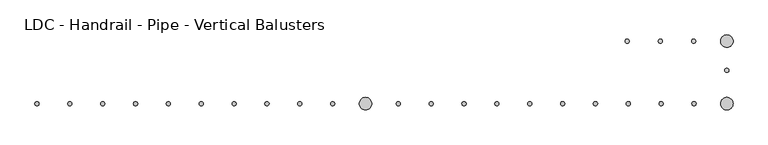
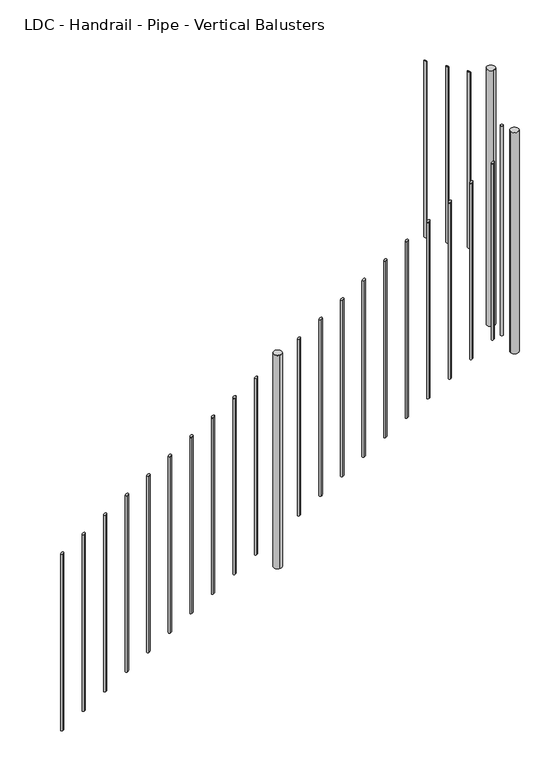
"""IFC4 building model written with IfcOpenShell, lengths in millimetres: railing geometry, LDC - Handrail - Pipe - Vertical Balusters."""

from ifc_helpers import new_model, si_unit, point, frame, frame_2d, origin, place, context, project, spatial, circle_curve, ellipse_curve, trimmed, segment, composite_curve, outline, extrude, source, transform, mapped, element, save
from ifc_brep_helpers import plane_surface, cylinder_surface, advanced_brep


def ldc_handrail_pipe_vertical_balusters_fc0078cb(model_context):
    return source(origin(), model_context, "Body", "SolidModel", [
        advanced_brep(
        [(-1009.8357461, 9510.077236, 2926.4947726), (-1009.8357461, 9522.777236, 2926.4947726), (-1009.8357461, 9522.777236, 2061.4083678), (-1009.8357461, 9510.077236, 2061.4083678)],
        [
            (0, 1, ellipse_curve(frame((-1009.8357461, 9516.427236, 2926.4947726), z_axis=(-0.5183017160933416, 0.0, -0.8551978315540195), x_axis=(-0.8551978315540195, 0.0, 0.5183017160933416)), 7.4251825, 6.35)),
            (1, 2),
            (2, 3, ellipse_curve(frame((-1009.8357461, 9516.427236, 2061.4083678), z_axis=(0.5183017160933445, 0.0, 0.8551978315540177), x_axis=(-0.8551978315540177, 0.0, 0.5183017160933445)), 7.4251825, 6.35)),
            (3, 0),
            (3, 2, ellipse_curve(frame((-1009.8357461, 9516.427236, 2061.4083678), z_axis=(0.5183017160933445, 0.0, 0.8551978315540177), x_axis=(-0.8551978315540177, 0.0, 0.5183017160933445)), 7.4251825, 6.35)),
            (1, 0, ellipse_curve(frame((-1009.8357461, 9516.427236, 2926.4947726), z_axis=(-0.5183017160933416, 0.0, -0.8551978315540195), x_axis=(-0.8551978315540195, 0.0, 0.5183017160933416)), 7.4251825, 6.35)),
        ],
        [
            cylinder_surface(frame((-1009.8357461, 9516.427236, 1832.8083678), z_axis=(0.0, 0.0, 1.0), x_axis=(0.0, 1.0, 0.0)), 6.35),
            plane_surface(frame((-1022.5357461, 9529.127236, 2934.1917423), z_axis=(0.5183017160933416, 0.0, 0.8551978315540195), x_axis=(0.0, -1.0, 0.0))),
            plane_surface(frame((-997.1357461, 9529.127236, 2053.7113981), z_axis=(-0.5183017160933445, 0.0, -0.8551978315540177), x_axis=(0.0, -1.0, 0.0))),
        ],
        [
            (0, [[1, 2, 3, 4]]),
            (0, [[5, -2, 6, -4]]),
            (1, [[-6, -1]]),
            (2, [[-5, -3]]),
        ],
    ),
        advanced_brep(
        [(-908.5243824, 9510.077236, 2864.8522106), (-908.5243824, 9522.777236, 2864.8522106), (-908.5243824, 9522.777236, 1999.7658058), (-908.5243824, 9510.077236, 1999.7658058)],
        [
            (0, 1, ellipse_curve(frame((-908.5243824, 9516.427236, 2864.8522106), z_axis=(-0.5183017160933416, 0.0, -0.8551978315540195), x_axis=(-0.8551978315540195, 0.0, 0.5183017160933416)), 7.4251825, 6.35)),
            (1, 2),
            (2, 3, ellipse_curve(frame((-908.5243824, 9516.427236, 1999.7658058), z_axis=(0.5183017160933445, 0.0, 0.8551978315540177), x_axis=(-0.8551978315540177, 0.0, 0.5183017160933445)), 7.4251825, 6.35)),
            (3, 0),
            (3, 2, ellipse_curve(frame((-908.5243824, 9516.427236, 1999.7658058), z_axis=(0.5183017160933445, 0.0, 0.8551978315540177), x_axis=(-0.8551978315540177, 0.0, 0.5183017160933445)), 7.4251825, 6.35)),
            (1, 0, ellipse_curve(frame((-908.5243824, 9516.427236, 2864.8522106), z_axis=(-0.5183017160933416, 0.0, -0.8551978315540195), x_axis=(-0.8551978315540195, 0.0, 0.5183017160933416)), 7.4251825, 6.35)),
        ],
        [
            cylinder_surface(frame((-908.5243824, 9516.427236, 1771.1658058), z_axis=(0.0, 0.0, 1.0), x_axis=(0.0, 1.0, 0.0)), 6.35),
            plane_surface(frame((-921.2243824, 9529.127236, 2872.5491803), z_axis=(0.5183017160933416, 0.0, 0.8551978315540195), x_axis=(0.0, -1.0, 0.0))),
            plane_surface(frame((-895.8243824, 9529.127236, 1992.0688361), z_axis=(-0.5183017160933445, 0.0, -0.8551978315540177), x_axis=(0.0, -1.0, 0.0))),
        ],
        [
            (0, [[1, 2, 3, 4]]),
            (0, [[5, -2, 6, -4]]),
            (1, [[-6, -1]]),
            (2, [[-5, -3]]),
        ],
    ),
        advanced_brep(
        [(-807.2130188, 9510.077236, 2803.2096486), (-807.2130188, 9522.777236, 2803.2096486), (-807.2130188, 9522.777236, 1938.1232438), (-807.2130188, 9510.077236, 1938.1232438)],
        [
            (0, 1, ellipse_curve(frame((-807.2130188, 9516.427236, 2803.2096486), z_axis=(-0.5183017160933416, 0.0, -0.8551978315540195), x_axis=(-0.8551978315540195, 0.0, 0.5183017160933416)), 7.4251825, 6.35)),
            (1, 2),
            (2, 3, ellipse_curve(frame((-807.2130188, 9516.427236, 1938.1232438), z_axis=(0.5183017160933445, 0.0, 0.8551978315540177), x_axis=(-0.8551978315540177, 0.0, 0.5183017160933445)), 7.4251825, 6.35)),
            (3, 0),
            (3, 2, ellipse_curve(frame((-807.2130188, 9516.427236, 1938.1232438), z_axis=(0.5183017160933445, 0.0, 0.8551978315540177), x_axis=(-0.8551978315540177, 0.0, 0.5183017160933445)), 7.4251825, 6.35)),
            (1, 0, ellipse_curve(frame((-807.2130188, 9516.427236, 2803.2096486), z_axis=(-0.5183017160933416, 0.0, -0.8551978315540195), x_axis=(-0.8551978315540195, 0.0, 0.5183017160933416)), 7.4251825, 6.35)),
        ],
        [
            cylinder_surface(frame((-807.2130188, 9516.427236, 1709.5232438), z_axis=(0.0, 0.0, 1.0), x_axis=(0.0, 1.0, 0.0)), 6.35),
            plane_surface(frame((-819.9130188, 9529.127236, 2810.9066183), z_axis=(0.5183017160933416, 0.0, 0.8551978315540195), x_axis=(0.0, -1.0, 0.0))),
            plane_surface(frame((-794.5130188, 9529.127236, 1930.4262741), z_axis=(-0.5183017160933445, 0.0, -0.8551978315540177), x_axis=(0.0, -1.0, 0.0))),
        ],
        [
            (0, [[1, 2, 3, 4]]),
            (0, [[5, -2, 6, -4]]),
            (1, [[-6, -1]]),
            (2, [[-5, -3]]),
        ],
    ),
        extrude(outline(composite_curve([segment(trimmed(circle_curve(frame_2d((-705.9016552, 9427.527236)), 6.35), [point((-699.5516552, 9427.527236))], [point((-712.2516552, 9427.527236))], False, "CARTESIAN"), True, "CONTINUOUS"), segment(trimmed(circle_curve(frame_2d((-705.9016552, 9427.527236)), 6.35), [point((-712.2516552, 9427.527236))], [point((-699.5516552, 9427.527236))], False, "CARTESIAN"), True, "CONTINUOUS")], self_intersect=False)), frame((0.0, 0.0, 1530.0), z_axis=(0.0, 0.0, 1.0), x_axis=(1.0, 0.0, 0.0)), (0.0, 0.0, 1.0), 1028.7),
        advanced_brep(
        [(-806.0584734, 9332.277236, 2471.9906403), (-806.0584734, 9319.577236, 2471.9906403), (-806.0584734, 9319.577236, 1606.9042355), (-806.0584734, 9332.277236, 1606.9042355)],
        [
            (0, 1, ellipse_curve(frame((-806.0584734, 9325.927236, 2471.9906403), z_axis=(0.5183017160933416, 0.0, -0.8551978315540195), x_axis=(0.8551978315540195, 0.0, 0.5183017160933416)), 7.4251825, 6.35)),
            (1, 2),
            (2, 3, ellipse_curve(frame((-806.0584734, 9325.927236, 1606.9042355), z_axis=(-0.5183017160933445, 0.0, 0.8551978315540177), x_axis=(0.8551978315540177, 0.0, 0.5183017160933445)), 7.4251825, 6.35)),
            (3, 0),
            (3, 2, ellipse_curve(frame((-806.0584734, 9325.927236, 1606.9042355), z_axis=(-0.5183017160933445, 0.0, 0.8551978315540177), x_axis=(0.8551978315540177, 0.0, 0.5183017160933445)), 7.4251825, 6.35)),
            (1, 0, ellipse_curve(frame((-806.0584734, 9325.927236, 2471.9906403), z_axis=(0.5183017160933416, 0.0, -0.8551978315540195), x_axis=(0.8551978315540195, 0.0, 0.5183017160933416)), 7.4251825, 6.35)),
        ],
        [
            cylinder_surface(frame((-806.0584734, 9325.927236, 1378.3042355), z_axis=(0.0, 0.0, 1.0), x_axis=(0.0, -1.0, 0.0)), 6.35),
            plane_surface(frame((-793.3584734, 9313.227236, 2479.68761), z_axis=(-0.5183017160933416, 0.0, 0.8551978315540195), x_axis=(0.0, 1.0, 0.0))),
            plane_surface(frame((-818.7584734, 9313.227236, 1599.2072658), z_axis=(0.5183017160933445, 0.0, -0.8551978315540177), x_axis=(0.0, 1.0, 0.0))),
        ],
        [
            (0, [[1, 2, 3, 4]]),
            (0, [[5, -2, 6, -4]]),
            (1, [[-6, -1]]),
            (2, [[-5, -3]]),
        ],
    ),
        advanced_brep(
        [(-906.2152915, 9332.277236, 2411.0505577), (-906.2152915, 9319.577236, 2411.0505577), (-906.2152915, 9319.577236, 1545.9641529), (-906.2152915, 9332.277236, 1545.9641529)],
        [
            (0, 1, ellipse_curve(frame((-906.2152915, 9325.927236, 2411.0505577), z_axis=(0.5183017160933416, 0.0, -0.8551978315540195), x_axis=(0.8551978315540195, 0.0, 0.5183017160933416)), 7.4251825, 6.35)),
            (1, 2),
            (2, 3, ellipse_curve(frame((-906.2152915, 9325.927236, 1545.9641529), z_axis=(-0.5183017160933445, 0.0, 0.8551978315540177), x_axis=(0.8551978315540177, 0.0, 0.5183017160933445)), 7.4251825, 6.35)),
            (3, 0),
            (3, 2, ellipse_curve(frame((-906.2152915, 9325.927236, 1545.9641529), z_axis=(-0.5183017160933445, 0.0, 0.8551978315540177), x_axis=(0.8551978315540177, 0.0, 0.5183017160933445)), 7.4251825, 6.35)),
            (1, 0, ellipse_curve(frame((-906.2152915, 9325.927236, 2411.0505577), z_axis=(0.5183017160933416, 0.0, -0.8551978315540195), x_axis=(0.8551978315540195, 0.0, 0.5183017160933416)), 7.4251825, 6.35)),
        ],
        [
            cylinder_surface(frame((-906.2152915, 9325.927236, 1317.3641529), z_axis=(0.0, 0.0, 1.0), x_axis=(0.0, -1.0, 0.0)), 6.35),
            plane_surface(frame((-893.5152915, 9313.227236, 2418.7475274), z_axis=(-0.5183017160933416, 0.0, 0.8551978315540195), x_axis=(0.0, 1.0, 0.0))),
            plane_surface(frame((-918.9152915, 9313.227236, 1538.2671832), z_axis=(0.5183017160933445, 0.0, -0.8551978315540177), x_axis=(0.0, 1.0, 0.0))),
        ],
        [
            (0, [[1, 2, 3, 4]]),
            (0, [[5, -2, 6, -4]]),
            (1, [[-6, -1]]),
            (2, [[-5, -3]]),
        ],
    ),
        advanced_brep(
        [(-1006.3721097, 9332.277236, 2350.1104751), (-1006.3721097, 9319.577236, 2350.1104751), (-1006.3721097, 9319.577236, 1485.0240702), (-1006.3721097, 9332.277236, 1485.0240702)],
        [
            (0, 1, ellipse_curve(frame((-1006.3721097, 9325.927236, 2350.1104751), z_axis=(0.5183017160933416, 0.0, -0.8551978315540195), x_axis=(0.8551978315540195, 0.0, 0.5183017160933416)), 7.4251825, 6.35)),
            (1, 2),
            (2, 3, ellipse_curve(frame((-1006.3721097, 9325.927236, 1485.0240702), z_axis=(-0.5183017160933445, 0.0, 0.8551978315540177), x_axis=(0.8551978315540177, 0.0, 0.5183017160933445)), 7.4251825, 6.35)),
            (3, 0),
            (3, 2, ellipse_curve(frame((-1006.3721097, 9325.927236, 1485.0240702), z_axis=(-0.5183017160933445, 0.0, 0.8551978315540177), x_axis=(0.8551978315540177, 0.0, 0.5183017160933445)), 7.4251825, 6.35)),
            (1, 0, ellipse_curve(frame((-1006.3721097, 9325.927236, 2350.1104751), z_axis=(0.5183017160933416, 0.0, -0.8551978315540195), x_axis=(0.8551978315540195, 0.0, 0.5183017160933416)), 7.4251825, 6.35)),
        ],
        [
            cylinder_surface(frame((-1006.3721097, 9325.927236, 1256.4240702), z_axis=(0.0, 0.0, 1.0), x_axis=(0.0, -1.0, 0.0)), 6.35),
            plane_surface(frame((-993.6721097, 9313.227236, 2357.8074448), z_axis=(-0.5183017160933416, 0.0, 0.8551978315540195), x_axis=(0.0, 1.0, 0.0))),
            plane_surface(frame((-1019.0721097, 9313.227236, 1477.3271006), z_axis=(0.5183017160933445, 0.0, -0.8551978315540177), x_axis=(0.0, 1.0, 0.0))),
        ],
        [
            (0, [[1, 2, 3, 4]]),
            (0, [[5, -2, 6, -4]]),
            (1, [[-6, -1]]),
            (2, [[-5, -3]]),
        ],
    ),
        advanced_brep(
        [(-1106.5289279, 9332.277236, 2289.1703924), (-1106.5289279, 9319.577236, 2289.1703924), (-1106.5289279, 9319.577236, 1424.0839876), (-1106.5289279, 9332.277236, 1424.0839876)],
        [
            (0, 1, ellipse_curve(frame((-1106.5289279, 9325.927236, 2289.1703924), z_axis=(0.5183017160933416, 0.0, -0.8551978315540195), x_axis=(0.8551978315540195, 0.0, 0.5183017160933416)), 7.4251825, 6.35)),
            (1, 2),
            (2, 3, ellipse_curve(frame((-1106.5289279, 9325.927236, 1424.0839876), z_axis=(-0.5183017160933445, 0.0, 0.8551978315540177), x_axis=(0.8551978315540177, 0.0, 0.5183017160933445)), 7.4251825, 6.35)),
            (3, 0),
            (3, 2, ellipse_curve(frame((-1106.5289279, 9325.927236, 1424.0839876), z_axis=(-0.5183017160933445, 0.0, 0.8551978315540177), x_axis=(0.8551978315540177, 0.0, 0.5183017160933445)), 7.4251825, 6.35)),
            (1, 0, ellipse_curve(frame((-1106.5289279, 9325.927236, 2289.1703924), z_axis=(0.5183017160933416, 0.0, -0.8551978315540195), x_axis=(0.8551978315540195, 0.0, 0.5183017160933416)), 7.4251825, 6.35)),
        ],
        [
            cylinder_surface(frame((-1106.5289279, 9325.927236, 1195.4839876), z_axis=(0.0, 0.0, 1.0), x_axis=(0.0, -1.0, 0.0)), 6.35),
            plane_surface(frame((-1093.8289279, 9313.227236, 2296.8673621), z_axis=(-0.5183017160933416, 0.0, 0.8551978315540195), x_axis=(0.0, 1.0, 0.0))),
            plane_surface(frame((-1119.2289279, 9313.227236, 1416.3870179), z_axis=(0.5183017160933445, 0.0, -0.8551978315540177), x_axis=(0.0, 1.0, 0.0))),
        ],
        [
            (0, [[1, 2, 3, 4]]),
            (0, [[5, -2, 6, -4]]),
            (1, [[-6, -1]]),
            (2, [[-5, -3]]),
        ],
    ),
        advanced_brep(
        [(-1206.6857461, 9332.277236, 2228.2303098), (-1206.6857461, 9319.577236, 2228.2303098), (-1206.6857461, 9319.577236, 1363.143905), (-1206.6857461, 9332.277236, 1363.143905)],
        [
            (0, 1, ellipse_curve(frame((-1206.6857461, 9325.927236, 2228.2303098), z_axis=(0.5183017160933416, 0.0, -0.8551978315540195), x_axis=(0.8551978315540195, 0.0, 0.5183017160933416)), 7.4251825, 6.35)),
            (1, 2),
            (2, 3, ellipse_curve(frame((-1206.6857461, 9325.927236, 1363.143905), z_axis=(-0.5183017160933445, 0.0, 0.8551978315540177), x_axis=(0.8551978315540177, 0.0, 0.5183017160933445)), 7.4251825, 6.35)),
            (3, 0),
            (3, 2, ellipse_curve(frame((-1206.6857461, 9325.927236, 1363.143905), z_axis=(-0.5183017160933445, 0.0, 0.8551978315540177), x_axis=(0.8551978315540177, 0.0, 0.5183017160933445)), 7.4251825, 6.35)),
            (1, 0, ellipse_curve(frame((-1206.6857461, 9325.927236, 2228.2303098), z_axis=(0.5183017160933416, 0.0, -0.8551978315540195), x_axis=(0.8551978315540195, 0.0, 0.5183017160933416)), 7.4251825, 6.35)),
        ],
        [
            cylinder_surface(frame((-1206.6857461, 9325.927236, 1134.543905), z_axis=(0.0, 0.0, 1.0), x_axis=(0.0, -1.0, 0.0)), 6.35),
            plane_surface(frame((-1193.9857461, 9313.227236, 2235.9272795), z_axis=(-0.5183017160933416, 0.0, 0.8551978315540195), x_axis=(0.0, 1.0, 0.0))),
            plane_surface(frame((-1219.3857461, 9313.227236, 1355.4469353), z_axis=(0.5183017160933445, 0.0, -0.8551978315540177), x_axis=(0.0, 1.0, 0.0))),
        ],
        [
            (0, [[1, 2, 3, 4]]),
            (0, [[5, -2, 6, -4]]),
            (1, [[-6, -1]]),
            (2, [[-5, -3]]),
        ],
    ),
        advanced_brep(
        [(-1306.8425643, 9332.277236, 2167.2902271), (-1306.8425643, 9319.577236, 2167.2902271), (-1306.8425643, 9319.577236, 1302.2038223), (-1306.8425643, 9332.277236, 1302.2038223)],
        [
            (0, 1, ellipse_curve(frame((-1306.8425643, 9325.927236, 2167.2902271), z_axis=(0.5183017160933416, 0.0, -0.8551978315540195), x_axis=(0.8551978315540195, 0.0, 0.5183017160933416)), 7.4251825, 6.35)),
            (1, 2),
            (2, 3, ellipse_curve(frame((-1306.8425643, 9325.927236, 1302.2038223), z_axis=(-0.5183017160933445, 0.0, 0.8551978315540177), x_axis=(0.8551978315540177, 0.0, 0.5183017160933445)), 7.4251825, 6.35)),
            (3, 0),
            (3, 2, ellipse_curve(frame((-1306.8425643, 9325.927236, 1302.2038223), z_axis=(-0.5183017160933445, 0.0, 0.8551978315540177), x_axis=(0.8551978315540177, 0.0, 0.5183017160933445)), 7.4251825, 6.35)),
            (1, 0, ellipse_curve(frame((-1306.8425643, 9325.927236, 2167.2902271), z_axis=(0.5183017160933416, 0.0, -0.8551978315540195), x_axis=(0.8551978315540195, 0.0, 0.5183017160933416)), 7.4251825, 6.35)),
        ],
        [
            cylinder_surface(frame((-1306.8425643, 9325.927236, 1073.6038223), z_axis=(0.0, 0.0, 1.0), x_axis=(0.0, -1.0, 0.0)), 6.35),
            plane_surface(frame((-1294.1425643, 9313.227236, 2174.9871968), z_axis=(-0.5183017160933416, 0.0, 0.8551978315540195), x_axis=(0.0, 1.0, 0.0))),
            plane_surface(frame((-1319.5425643, 9313.227236, 1294.5068526), z_axis=(0.5183017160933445, 0.0, -0.8551978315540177), x_axis=(0.0, 1.0, 0.0))),
        ],
        [
            (0, [[1, 2, 3, 4]]),
            (0, [[5, -2, 6, -4]]),
            (1, [[-6, -1]]),
            (2, [[-5, -3]]),
        ],
    ),
        advanced_brep(
        [(-1406.9993824, 9332.277236, 2106.3501445), (-1406.9993824, 9319.577236, 2106.3501445), (-1406.9993824, 9319.577236, 1241.2637397), (-1406.9993824, 9332.277236, 1241.2637397)],
        [
            (0, 1, ellipse_curve(frame((-1406.9993824, 9325.927236, 2106.3501445), z_axis=(0.5183017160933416, 0.0, -0.8551978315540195), x_axis=(0.8551978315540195, 0.0, 0.5183017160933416)), 7.4251825, 6.35)),
            (1, 2),
            (2, 3, ellipse_curve(frame((-1406.9993824, 9325.927236, 1241.2637397), z_axis=(-0.5183017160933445, 0.0, 0.8551978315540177), x_axis=(0.8551978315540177, 0.0, 0.5183017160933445)), 7.4251825, 6.35)),
            (3, 0),
            (3, 2, ellipse_curve(frame((-1406.9993824, 9325.927236, 1241.2637397), z_axis=(-0.5183017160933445, 0.0, 0.8551978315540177), x_axis=(0.8551978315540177, 0.0, 0.5183017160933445)), 7.4251825, 6.35)),
            (1, 0, ellipse_curve(frame((-1406.9993824, 9325.927236, 2106.3501445), z_axis=(0.5183017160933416, 0.0, -0.8551978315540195), x_axis=(0.8551978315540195, 0.0, 0.5183017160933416)), 7.4251825, 6.35)),
        ],
        [
            cylinder_surface(frame((-1406.9993824, 9325.927236, 1012.6637397), z_axis=(0.0, 0.0, 1.0), x_axis=(0.0, -1.0, 0.0)), 6.35),
            plane_surface(frame((-1394.2993824, 9313.227236, 2114.0471142), z_axis=(-0.5183017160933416, 0.0, 0.8551978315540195), x_axis=(0.0, 1.0, 0.0))),
            plane_surface(frame((-1419.6993824, 9313.227236, 1233.56677), z_axis=(0.5183017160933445, 0.0, -0.8551978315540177), x_axis=(0.0, 1.0, 0.0))),
        ],
        [
            (0, [[1, 2, 3, 4]]),
            (0, [[5, -2, 6, -4]]),
            (1, [[-6, -1]]),
            (2, [[-5, -3]]),
        ],
    ),
        advanced_brep(
        [(-1507.1562006, 9332.277236, 2045.4100618), (-1507.1562006, 9319.577236, 2045.4100618), (-1507.1562006, 9319.577236, 1180.323657), (-1507.1562006, 9332.277236, 1180.323657)],
        [
            (0, 1, ellipse_curve(frame((-1507.1562006, 9325.927236, 2045.4100618), z_axis=(0.5183017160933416, 0.0, -0.8551978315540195), x_axis=(0.8551978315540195, 0.0, 0.5183017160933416)), 7.4251825, 6.35)),
            (1, 2),
            (2, 3, ellipse_curve(frame((-1507.1562006, 9325.927236, 1180.323657), z_axis=(-0.5183017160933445, 0.0, 0.8551978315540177), x_axis=(0.8551978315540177, 0.0, 0.5183017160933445)), 7.4251825, 6.35)),
            (3, 0),
            (3, 2, ellipse_curve(frame((-1507.1562006, 9325.927236, 1180.323657), z_axis=(-0.5183017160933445, 0.0, 0.8551978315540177), x_axis=(0.8551978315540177, 0.0, 0.5183017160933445)), 7.4251825, 6.35)),
            (1, 0, ellipse_curve(frame((-1507.1562006, 9325.927236, 2045.4100618), z_axis=(0.5183017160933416, 0.0, -0.8551978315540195), x_axis=(0.8551978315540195, 0.0, 0.5183017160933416)), 7.4251825, 6.35)),
        ],
        [
            cylinder_surface(frame((-1507.1562006, 9325.927236, 951.723657), z_axis=(0.0, 0.0, 1.0), x_axis=(0.0, -1.0, 0.0)), 6.35),
            plane_surface(frame((-1494.4562006, 9313.227236, 2053.1070315), z_axis=(-0.5183017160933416, 0.0, 0.8551978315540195), x_axis=(0.0, 1.0, 0.0))),
            plane_surface(frame((-1519.8562006, 9313.227236, 1172.6266873), z_axis=(0.5183017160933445, 0.0, -0.8551978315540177), x_axis=(0.0, 1.0, 0.0))),
        ],
        [
            (0, [[1, 2, 3, 4]]),
            (0, [[5, -2, 6, -4]]),
            (1, [[-6, -1]]),
            (2, [[-5, -3]]),
        ],
    ),
        advanced_brep(
        [(-1607.3130188, 9332.277236, 1984.4699792), (-1607.3130188, 9319.577236, 1984.4699792), (-1607.3130188, 9319.577236, 1119.3835744), (-1607.3130188, 9332.277236, 1119.3835744)],
        [
            (0, 1, ellipse_curve(frame((-1607.3130188, 9325.927236, 1984.4699792), z_axis=(0.5183017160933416, 0.0, -0.8551978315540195), x_axis=(0.8551978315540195, 0.0, 0.5183017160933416)), 7.4251825, 6.35)),
            (1, 2),
            (2, 3, ellipse_curve(frame((-1607.3130188, 9325.927236, 1119.3835744), z_axis=(-0.5183017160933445, 0.0, 0.8551978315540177), x_axis=(0.8551978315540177, 0.0, 0.5183017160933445)), 7.4251825, 6.35)),
            (3, 0),
            (3, 2, ellipse_curve(frame((-1607.3130188, 9325.927236, 1119.3835744), z_axis=(-0.5183017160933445, 0.0, 0.8551978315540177), x_axis=(0.8551978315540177, 0.0, 0.5183017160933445)), 7.4251825, 6.35)),
            (1, 0, ellipse_curve(frame((-1607.3130188, 9325.927236, 1984.4699792), z_axis=(0.5183017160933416, 0.0, -0.8551978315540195), x_axis=(0.8551978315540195, 0.0, 0.5183017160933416)), 7.4251825, 6.35)),
        ],
        [
            cylinder_surface(frame((-1607.3130188, 9325.927236, 890.7835744), z_axis=(0.0, 0.0, 1.0), x_axis=(0.0, -1.0, 0.0)), 6.35),
            plane_surface(frame((-1594.6130188, 9313.227236, 1992.1669489), z_axis=(-0.5183017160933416, 0.0, 0.8551978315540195), x_axis=(0.0, 1.0, 0.0))),
            plane_surface(frame((-1620.0130188, 9313.227236, 1111.6866047), z_axis=(0.5183017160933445, 0.0, -0.8551978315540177), x_axis=(0.0, 1.0, 0.0))),
        ],
        [
            (0, [[1, 2, 3, 4]]),
            (0, [[5, -2, 6, -4]]),
            (1, [[-6, -1]]),
            (2, [[-5, -3]]),
        ],
    ),
        advanced_brep(
        [(-1707.469837, 9332.277236, 1923.5298965), (-1707.469837, 9319.577236, 1923.5298965), (-1707.469837, 9319.577236, 1058.4434917), (-1707.469837, 9332.277236, 1058.4434917)],
        [
            (0, 1, ellipse_curve(frame((-1707.469837, 9325.927236, 1923.5298965), z_axis=(0.5183017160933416, 0.0, -0.8551978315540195), x_axis=(0.8551978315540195, 0.0, 0.5183017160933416)), 7.4251825, 6.35)),
            (1, 2),
            (2, 3, ellipse_curve(frame((-1707.469837, 9325.927236, 1058.4434917), z_axis=(-0.5183017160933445, 0.0, 0.8551978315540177), x_axis=(0.8551978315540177, 0.0, 0.5183017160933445)), 7.4251825, 6.35)),
            (3, 0),
            (3, 2, ellipse_curve(frame((-1707.469837, 9325.927236, 1058.4434917), z_axis=(-0.5183017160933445, 0.0, 0.8551978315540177), x_axis=(0.8551978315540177, 0.0, 0.5183017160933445)), 7.4251825, 6.35)),
            (1, 0, ellipse_curve(frame((-1707.469837, 9325.927236, 1923.5298965), z_axis=(0.5183017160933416, 0.0, -0.8551978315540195), x_axis=(0.8551978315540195, 0.0, 0.5183017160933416)), 7.4251825, 6.35)),
        ],
        [
            cylinder_surface(frame((-1707.469837, 9325.927236, 829.8434917), z_axis=(0.0, 0.0, 1.0), x_axis=(0.0, -1.0, 0.0)), 6.35),
            plane_surface(frame((-1694.769837, 9313.227236, 1931.2268662), z_axis=(-0.5183017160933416, 0.0, 0.8551978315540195), x_axis=(0.0, 1.0, 0.0))),
            plane_surface(frame((-1720.169837, 9313.227236, 1050.746522), z_axis=(0.5183017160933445, 0.0, -0.8551978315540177), x_axis=(0.0, 1.0, 0.0))),
        ],
        [
            (0, [[1, 2, 3, 4]]),
            (0, [[5, -2, 6, -4]]),
            (1, [[-6, -1]]),
            (2, [[-5, -3]]),
        ],
    ),
        extrude(outline(composite_curve([segment(trimmed(circle_curve(frame_2d((-1807.6266552, 9325.927236)), 19.05), [point((-1807.6266552, 9306.877236))], [point((-1807.6266552, 9344.977236))], False, "CARTESIAN"), True, "CONTINUOUS"), segment(trimmed(circle_curve(frame_2d((-1807.6266552, 9325.927236)), 19.05), [point((-1807.6266552, 9344.977236))], [point((-1807.6266552, 9306.877236))], False, "CARTESIAN"), True, "CONTINUOUS")], self_intersect=False)), frame((0.0, 0.0, 840.3409091), z_axis=(0.0, 0.0, 1.0), x_axis=(1.0, 0.0, 0.0)), (0.0, 0.0, 1.0), 1047.75),
        advanced_brep(
        [(-1807.6266552, 9332.277236, 1862.5898139), (-1807.6266552, 9319.577236, 1862.5898139), (-1807.6266552, 9319.577236, 997.5034091), (-1807.6266552, 9332.277236, 997.5034091)],
        [
            (0, 1, ellipse_curve(frame((-1807.6266552, 9325.927236, 1862.5898139), z_axis=(0.5183017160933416, 0.0, -0.8551978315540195), x_axis=(0.8551978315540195, 0.0, 0.5183017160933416)), 7.4251825, 6.35)),
            (1, 2),
            (2, 3, ellipse_curve(frame((-1807.6266552, 9325.927236, 997.5034091), z_axis=(-0.5183017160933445, 0.0, 0.8551978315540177), x_axis=(0.8551978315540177, 0.0, 0.5183017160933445)), 7.4251825, 6.35)),
            (3, 0),
            (3, 2, ellipse_curve(frame((-1807.6266552, 9325.927236, 997.5034091), z_axis=(-0.5183017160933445, 0.0, 0.8551978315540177), x_axis=(0.8551978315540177, 0.0, 0.5183017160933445)), 7.4251825, 6.35)),
            (1, 0, ellipse_curve(frame((-1807.6266552, 9325.927236, 1862.5898139), z_axis=(0.5183017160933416, 0.0, -0.8551978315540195), x_axis=(0.8551978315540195, 0.0, 0.5183017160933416)), 7.4251825, 6.35)),
        ],
        [
            cylinder_surface(frame((-1807.6266552, 9325.927236, 768.9034091), z_axis=(0.0, 0.0, 1.0), x_axis=(0.0, -1.0, 0.0)), 6.35),
            plane_surface(frame((-1794.9266552, 9313.227236, 1870.2867836), z_axis=(-0.5183017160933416, 0.0, 0.8551978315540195), x_axis=(0.0, 1.0, 0.0))),
            plane_surface(frame((-1820.3266552, 9313.227236, 989.8064394), z_axis=(0.5183017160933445, 0.0, -0.8551978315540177), x_axis=(0.0, 1.0, 0.0))),
        ],
        [
            (0, [[1, 2, 3, 4]]),
            (0, [[5, -2, 6, -4]]),
            (1, [[-6, -1]]),
            (2, [[-5, -3]]),
        ],
    ),
        advanced_brep(
        [(-1907.7834734, 9332.277236, 1801.6497313), (-1907.7834734, 9319.577236, 1801.6497313), (-1907.7834734, 9319.577236, 936.5633264), (-1907.7834734, 9332.277236, 936.5633264)],
        [
            (0, 1, ellipse_curve(frame((-1907.7834734, 9325.927236, 1801.6497313), z_axis=(0.5183017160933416, 0.0, -0.8551978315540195), x_axis=(0.8551978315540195, 0.0, 0.5183017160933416)), 7.4251825, 6.35)),
            (1, 2),
            (2, 3, ellipse_curve(frame((-1907.7834734, 9325.927236, 936.5633264), z_axis=(-0.5183017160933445, 0.0, 0.8551978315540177), x_axis=(0.8551978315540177, 0.0, 0.5183017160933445)), 7.4251825, 6.35)),
            (3, 0),
            (3, 2, ellipse_curve(frame((-1907.7834734, 9325.927236, 936.5633264), z_axis=(-0.5183017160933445, 0.0, 0.8551978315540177), x_axis=(0.8551978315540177, 0.0, 0.5183017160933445)), 7.4251825, 6.35)),
            (1, 0, ellipse_curve(frame((-1907.7834734, 9325.927236, 1801.6497313), z_axis=(0.5183017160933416, 0.0, -0.8551978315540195), x_axis=(0.8551978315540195, 0.0, 0.5183017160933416)), 7.4251825, 6.35)),
        ],
        [
            cylinder_surface(frame((-1907.7834734, 9325.927236, 707.9633264), z_axis=(0.0, 0.0, 1.0), x_axis=(0.0, -1.0, 0.0)), 6.35),
            plane_surface(frame((-1895.0834734, 9313.227236, 1809.346701), z_axis=(-0.5183017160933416, 0.0, 0.8551978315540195), x_axis=(0.0, 1.0, 0.0))),
            plane_surface(frame((-1920.4834734, 9313.227236, 928.8663567), z_axis=(0.5183017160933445, 0.0, -0.8551978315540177), x_axis=(0.0, 1.0, 0.0))),
        ],
        [
            (0, [[1, 2, 3, 4]]),
            (0, [[5, -2, 6, -4]]),
            (1, [[-6, -1]]),
            (2, [[-5, -3]]),
        ],
    ),
        advanced_brep(
        [(-2007.9402915, 9332.277236, 1740.7096486), (-2007.9402915, 9319.577236, 1740.7096486), (-2007.9402915, 9319.577236, 875.6232438), (-2007.9402915, 9332.277236, 875.6232438)],
        [
            (0, 1, ellipse_curve(frame((-2007.9402915, 9325.927236, 1740.7096486), z_axis=(0.5183017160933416, 0.0, -0.8551978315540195), x_axis=(0.8551978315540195, 0.0, 0.5183017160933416)), 7.4251825, 6.35)),
            (1, 2),
            (2, 3, ellipse_curve(frame((-2007.9402915, 9325.927236, 875.6232438), z_axis=(-0.5183017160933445, 0.0, 0.8551978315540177), x_axis=(0.8551978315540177, 0.0, 0.5183017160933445)), 7.4251825, 6.35)),
            (3, 0),
            (3, 2, ellipse_curve(frame((-2007.9402915, 9325.927236, 875.6232438), z_axis=(-0.5183017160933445, 0.0, 0.8551978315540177), x_axis=(0.8551978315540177, 0.0, 0.5183017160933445)), 7.4251825, 6.35)),
            (1, 0, ellipse_curve(frame((-2007.9402915, 9325.927236, 1740.7096486), z_axis=(0.5183017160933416, 0.0, -0.8551978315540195), x_axis=(0.8551978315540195, 0.0, 0.5183017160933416)), 7.4251825, 6.35)),
        ],
        [
            cylinder_surface(frame((-2007.9402915, 9325.927236, 647.0232438), z_axis=(0.0, 0.0, 1.0), x_axis=(0.0, -1.0, 0.0)), 6.35),
            plane_surface(frame((-1995.2402915, 9313.227236, 1748.4066183), z_axis=(-0.5183017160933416, 0.0, 0.8551978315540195), x_axis=(0.0, 1.0, 0.0))),
            plane_surface(frame((-2020.6402915, 9313.227236, 867.9262741), z_axis=(0.5183017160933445, 0.0, -0.8551978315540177), x_axis=(0.0, 1.0, 0.0))),
        ],
        [
            (0, [[1, 2, 3, 4]]),
            (0, [[5, -2, 6, -4]]),
            (1, [[-6, -1]]),
            (2, [[-5, -3]]),
        ],
    ),
        advanced_brep(
        [(-2108.0971097, 9332.277236, 1679.769566), (-2108.0971097, 9319.577236, 1679.769566), (-2108.0971097, 9319.577236, 814.6831612), (-2108.0971097, 9332.277236, 814.6831612)],
        [
            (0, 1, ellipse_curve(frame((-2108.0971097, 9325.927236, 1679.769566), z_axis=(0.5183017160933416, 0.0, -0.8551978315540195), x_axis=(0.8551978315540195, 0.0, 0.5183017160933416)), 7.4251825, 6.35)),
            (1, 2),
            (2, 3, ellipse_curve(frame((-2108.0971097, 9325.927236, 814.6831612), z_axis=(-0.5183017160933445, 0.0, 0.8551978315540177), x_axis=(0.8551978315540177, 0.0, 0.5183017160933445)), 7.4251825, 6.35)),
            (3, 0),
            (3, 2, ellipse_curve(frame((-2108.0971097, 9325.927236, 814.6831612), z_axis=(-0.5183017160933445, 0.0, 0.8551978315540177), x_axis=(0.8551978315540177, 0.0, 0.5183017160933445)), 7.4251825, 6.35)),
            (1, 0, ellipse_curve(frame((-2108.0971097, 9325.927236, 1679.769566), z_axis=(0.5183017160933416, 0.0, -0.8551978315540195), x_axis=(0.8551978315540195, 0.0, 0.5183017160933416)), 7.4251825, 6.35)),
        ],
        [
            cylinder_surface(frame((-2108.0971097, 9325.927236, 586.0831612), z_axis=(0.0, 0.0, 1.0), x_axis=(0.0, -1.0, 0.0)), 6.35),
            plane_surface(frame((-2095.3971097, 9313.227236, 1687.4665357), z_axis=(-0.5183017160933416, 0.0, 0.8551978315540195), x_axis=(0.0, 1.0, 0.0))),
            plane_surface(frame((-2120.7971097, 9313.227236, 806.9861915), z_axis=(0.5183017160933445, 0.0, -0.8551978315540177), x_axis=(0.0, 1.0, 0.0))),
        ],
        [
            (0, [[1, 2, 3, 4]]),
            (0, [[5, -2, 6, -4]]),
            (1, [[-6, -1]]),
            (2, [[-5, -3]]),
        ],
    ),
        advanced_brep(
        [(-2208.2539279, 9332.277236, 1618.8294833), (-2208.2539279, 9319.577236, 1618.8294833), (-2208.2539279, 9319.577236, 753.7430785), (-2208.2539279, 9332.277236, 753.7430785)],
        [
            (0, 1, ellipse_curve(frame((-2208.2539279, 9325.927236, 1618.8294833), z_axis=(0.5183017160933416, 0.0, -0.8551978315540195), x_axis=(0.8551978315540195, 0.0, 0.5183017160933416)), 7.4251825, 6.35)),
            (1, 2),
            (2, 3, ellipse_curve(frame((-2208.2539279, 9325.927236, 753.7430785), z_axis=(-0.5183017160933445, 0.0, 0.8551978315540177), x_axis=(0.8551978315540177, 0.0, 0.5183017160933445)), 7.4251825, 6.35)),
            (3, 0),
            (3, 2, ellipse_curve(frame((-2208.2539279, 9325.927236, 753.7430785), z_axis=(-0.5183017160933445, 0.0, 0.8551978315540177), x_axis=(0.8551978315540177, 0.0, 0.5183017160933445)), 7.4251825, 6.35)),
            (1, 0, ellipse_curve(frame((-2208.2539279, 9325.927236, 1618.8294833), z_axis=(0.5183017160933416, 0.0, -0.8551978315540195), x_axis=(0.8551978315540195, 0.0, 0.5183017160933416)), 7.4251825, 6.35)),
        ],
        [
            cylinder_surface(frame((-2208.2539279, 9325.927236, 525.1430785), z_axis=(0.0, 0.0, 1.0), x_axis=(0.0, -1.0, 0.0)), 6.35),
            plane_surface(frame((-2195.5539279, 9313.227236, 1626.526453), z_axis=(-0.5183017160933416, 0.0, 0.8551978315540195), x_axis=(0.0, 1.0, 0.0))),
            plane_surface(frame((-2220.9539279, 9313.227236, 746.0461088), z_axis=(0.5183017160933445, 0.0, -0.8551978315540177), x_axis=(0.0, 1.0, 0.0))),
        ],
        [
            (0, [[1, 2, 3, 4]]),
            (0, [[5, -2, 6, -4]]),
            (1, [[-6, -1]]),
            (2, [[-5, -3]]),
        ],
    ),
        advanced_brep(
        [(-2308.4107461, 9332.277236, 1557.8894007), (-2308.4107461, 9319.577236, 1557.8894007), (-2308.4107461, 9319.577236, 692.8029959), (-2308.4107461, 9332.277236, 692.8029959)],
        [
            (0, 1, ellipse_curve(frame((-2308.4107461, 9325.927236, 1557.8894007), z_axis=(0.5183017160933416, 0.0, -0.8551978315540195), x_axis=(0.8551978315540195, 0.0, 0.5183017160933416)), 7.4251825, 6.35)),
            (1, 2),
            (2, 3, ellipse_curve(frame((-2308.4107461, 9325.927236, 692.8029959), z_axis=(-0.5183017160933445, 0.0, 0.8551978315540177), x_axis=(0.8551978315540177, 0.0, 0.5183017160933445)), 7.4251825, 6.35)),
            (3, 0),
            (3, 2, ellipse_curve(frame((-2308.4107461, 9325.927236, 692.8029959), z_axis=(-0.5183017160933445, 0.0, 0.8551978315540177), x_axis=(0.8551978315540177, 0.0, 0.5183017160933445)), 7.4251825, 6.35)),
            (1, 0, ellipse_curve(frame((-2308.4107461, 9325.927236, 1557.8894007), z_axis=(0.5183017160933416, 0.0, -0.8551978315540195), x_axis=(0.8551978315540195, 0.0, 0.5183017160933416)), 7.4251825, 6.35)),
        ],
        [
            cylinder_surface(frame((-2308.4107461, 9325.927236, 464.2029959), z_axis=(0.0, 0.0, 1.0), x_axis=(0.0, -1.0, 0.0)), 6.35),
            plane_surface(frame((-2295.7107461, 9313.227236, 1565.5863704), z_axis=(-0.5183017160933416, 0.0, 0.8551978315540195), x_axis=(0.0, 1.0, 0.0))),
            plane_surface(frame((-2321.1107461, 9313.227236, 685.1060262), z_axis=(0.5183017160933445, 0.0, -0.8551978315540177), x_axis=(0.0, 1.0, 0.0))),
        ],
        [
            (0, [[1, 2, 3, 4]]),
            (0, [[5, -2, 6, -4]]),
            (1, [[-6, -1]]),
            (2, [[-5, -3]]),
        ],
    ),
        advanced_brep(
        [(-2408.5675643, 9332.277236, 1496.949318), (-2408.5675643, 9319.577236, 1496.949318), (-2408.5675643, 9319.577236, 631.8629132), (-2408.5675643, 9332.277236, 631.8629132)],
        [
            (0, 1, ellipse_curve(frame((-2408.5675643, 9325.927236, 1496.949318), z_axis=(0.5183017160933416, 0.0, -0.8551978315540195), x_axis=(0.8551978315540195, 0.0, 0.5183017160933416)), 7.4251825, 6.35)),
            (1, 2),
            (2, 3, ellipse_curve(frame((-2408.5675643, 9325.927236, 631.8629132), z_axis=(-0.5183017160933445, 0.0, 0.8551978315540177), x_axis=(0.8551978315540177, 0.0, 0.5183017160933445)), 7.4251825, 6.35)),
            (3, 0),
            (3, 2, ellipse_curve(frame((-2408.5675643, 9325.927236, 631.8629132), z_axis=(-0.5183017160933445, 0.0, 0.8551978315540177), x_axis=(0.8551978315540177, 0.0, 0.5183017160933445)), 7.4251825, 6.35)),
            (1, 0, ellipse_curve(frame((-2408.5675643, 9325.927236, 1496.949318), z_axis=(0.5183017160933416, 0.0, -0.8551978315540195), x_axis=(0.8551978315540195, 0.0, 0.5183017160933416)), 7.4251825, 6.35)),
        ],
        [
            cylinder_surface(frame((-2408.5675643, 9325.927236, 403.2629132), z_axis=(0.0, 0.0, 1.0), x_axis=(0.0, -1.0, 0.0)), 6.35),
            plane_surface(frame((-2395.8675643, 9313.227236, 1504.6462877), z_axis=(-0.5183017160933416, 0.0, 0.8551978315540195), x_axis=(0.0, 1.0, 0.0))),
            plane_surface(frame((-2421.2675643, 9313.227236, 624.1659435), z_axis=(0.5183017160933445, 0.0, -0.8551978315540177), x_axis=(0.0, 1.0, 0.0))),
        ],
        [
            (0, [[1, 2, 3, 4]]),
            (0, [[5, -2, 6, -4]]),
            (1, [[-6, -1]]),
            (2, [[-5, -3]]),
        ],
    ),
        advanced_brep(
        [(-2508.7243824, 9332.277236, 1436.0092354), (-2508.7243824, 9319.577236, 1436.0092354), (-2508.7243824, 9319.577236, 570.9228306), (-2508.7243824, 9332.277236, 570.9228306)],
        [
            (0, 1, ellipse_curve(frame((-2508.7243824, 9325.927236, 1436.0092354), z_axis=(0.5183017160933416, 0.0, -0.8551978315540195), x_axis=(0.8551978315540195, 0.0, 0.5183017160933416)), 7.4251825, 6.35)),
            (1, 2),
            (2, 3, ellipse_curve(frame((-2508.7243824, 9325.927236, 570.9228306), z_axis=(-0.5183017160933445, 0.0, 0.8551978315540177), x_axis=(0.8551978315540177, 0.0, 0.5183017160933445)), 7.4251825, 6.35)),
            (3, 0),
            (3, 2, ellipse_curve(frame((-2508.7243824, 9325.927236, 570.9228306), z_axis=(-0.5183017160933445, 0.0, 0.8551978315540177), x_axis=(0.8551978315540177, 0.0, 0.5183017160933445)), 7.4251825, 6.35)),
            (1, 0, ellipse_curve(frame((-2508.7243824, 9325.927236, 1436.0092354), z_axis=(0.5183017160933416, 0.0, -0.8551978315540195), x_axis=(0.8551978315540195, 0.0, 0.5183017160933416)), 7.4251825, 6.35)),
        ],
        [
            cylinder_surface(frame((-2508.7243824, 9325.927236, 342.3228306), z_axis=(0.0, 0.0, 1.0), x_axis=(0.0, -1.0, 0.0)), 6.35),
            plane_surface(frame((-2496.0243824, 9313.227236, 1443.7062051), z_axis=(-0.5183017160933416, 0.0, 0.8551978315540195), x_axis=(0.0, 1.0, 0.0))),
            plane_surface(frame((-2521.4243824, 9313.227236, 563.2258609), z_axis=(0.5183017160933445, 0.0, -0.8551978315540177), x_axis=(0.0, 1.0, 0.0))),
        ],
        [
            (0, [[1, 2, 3, 4]]),
            (0, [[5, -2, 6, -4]]),
            (1, [[-6, -1]]),
            (2, [[-5, -3]]),
        ],
    ),
        advanced_brep(
        [(-2608.8812006, 9332.277236, 1375.0691527), (-2608.8812006, 9319.577236, 1375.0691527), (-2608.8812006, 9319.577236, 509.9827479), (-2608.8812006, 9332.277236, 509.9827479)],
        [
            (0, 1, ellipse_curve(frame((-2608.8812006, 9325.927236, 1375.0691527), z_axis=(0.5183017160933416, 0.0, -0.8551978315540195), x_axis=(0.8551978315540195, 0.0, 0.5183017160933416)), 7.4251825, 6.35)),
            (1, 2),
            (2, 3, ellipse_curve(frame((-2608.8812006, 9325.927236, 509.9827479), z_axis=(-0.5183017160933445, 0.0, 0.8551978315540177), x_axis=(0.8551978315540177, 0.0, 0.5183017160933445)), 7.4251825, 6.35)),
            (3, 0),
            (3, 2, ellipse_curve(frame((-2608.8812006, 9325.927236, 509.9827479), z_axis=(-0.5183017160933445, 0.0, 0.8551978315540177), x_axis=(0.8551978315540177, 0.0, 0.5183017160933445)), 7.4251825, 6.35)),
            (1, 0, ellipse_curve(frame((-2608.8812006, 9325.927236, 1375.0691527), z_axis=(0.5183017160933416, 0.0, -0.8551978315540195), x_axis=(0.8551978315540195, 0.0, 0.5183017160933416)), 7.4251825, 6.35)),
        ],
        [
            cylinder_surface(frame((-2608.8812006, 9325.927236, 281.3827479), z_axis=(0.0, 0.0, 1.0), x_axis=(0.0, -1.0, 0.0)), 6.35),
            plane_surface(frame((-2596.1812006, 9313.227236, 1382.7661224), z_axis=(-0.5183017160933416, 0.0, 0.8551978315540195), x_axis=(0.0, 1.0, 0.0))),
            plane_surface(frame((-2621.5812006, 9313.227236, 502.2857782), z_axis=(0.5183017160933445, 0.0, -0.8551978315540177), x_axis=(0.0, 1.0, 0.0))),
        ],
        [
            (0, [[1, 2, 3, 4]]),
            (0, [[5, -2, 6, -4]]),
            (1, [[-6, -1]]),
            (2, [[-5, -3]]),
        ],
    ),
        advanced_brep(
        [(-2709.0380188, 9332.277236, 1314.1290701), (-2709.0380188, 9319.577236, 1314.1290701), (-2709.0380188, 9319.577236, 449.0426653), (-2709.0380188, 9332.277236, 449.0426653)],
        [
            (0, 1, ellipse_curve(frame((-2709.0380188, 9325.927236, 1314.1290701), z_axis=(0.5183017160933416, 0.0, -0.8551978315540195), x_axis=(0.8551978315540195, 0.0, 0.5183017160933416)), 7.4251825, 6.35)),
            (1, 2),
            (2, 3, ellipse_curve(frame((-2709.0380188, 9325.927236, 449.0426653), z_axis=(-0.5183017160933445, 0.0, 0.8551978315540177), x_axis=(0.8551978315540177, 0.0, 0.5183017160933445)), 7.4251825, 6.35)),
            (3, 0),
            (3, 2, ellipse_curve(frame((-2709.0380188, 9325.927236, 449.0426653), z_axis=(-0.5183017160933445, 0.0, 0.8551978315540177), x_axis=(0.8551978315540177, 0.0, 0.5183017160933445)), 7.4251825, 6.35)),
            (1, 0, ellipse_curve(frame((-2709.0380188, 9325.927236, 1314.1290701), z_axis=(0.5183017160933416, 0.0, -0.8551978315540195), x_axis=(0.8551978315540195, 0.0, 0.5183017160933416)), 7.4251825, 6.35)),
        ],
        [
            cylinder_surface(frame((-2709.0380188, 9325.927236, 220.4426653), z_axis=(0.0, 0.0, 1.0), x_axis=(0.0, -1.0, 0.0)), 6.35),
            plane_surface(frame((-2696.3380188, 9313.227236, 1321.8260398), z_axis=(-0.5183017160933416, 0.0, 0.8551978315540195), x_axis=(0.0, 1.0, 0.0))),
            plane_surface(frame((-2721.7380188, 9313.227236, 441.3456956), z_axis=(0.5183017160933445, 0.0, -0.8551978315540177), x_axis=(0.0, 1.0, 0.0))),
        ],
        [
            (0, [[1, 2, 3, 4]]),
            (0, [[5, -2, 6, -4]]),
            (1, [[-6, -1]]),
            (2, [[-5, -3]]),
        ],
    ),
        advanced_brep(
        [(-2809.194837, 9332.277236, 1253.1889875), (-2809.194837, 9319.577236, 1253.1889875), (-2809.194837, 9319.577236, 388.1025826), (-2809.194837, 9332.277236, 388.1025826)],
        [
            (0, 1, ellipse_curve(frame((-2809.194837, 9325.927236, 1253.1889875), z_axis=(0.5183017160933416, 0.0, -0.8551978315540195), x_axis=(0.8551978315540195, 0.0, 0.5183017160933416)), 7.4251825, 6.35)),
            (1, 2),
            (2, 3, ellipse_curve(frame((-2809.194837, 9325.927236, 388.1025826), z_axis=(-0.5183017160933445, 0.0, 0.8551978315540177), x_axis=(0.8551978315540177, 0.0, 0.5183017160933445)), 7.4251825, 6.35)),
            (3, 0),
            (3, 2, ellipse_curve(frame((-2809.194837, 9325.927236, 388.1025826), z_axis=(-0.5183017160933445, 0.0, 0.8551978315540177), x_axis=(0.8551978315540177, 0.0, 0.5183017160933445)), 7.4251825, 6.35)),
            (1, 0, ellipse_curve(frame((-2809.194837, 9325.927236, 1253.1889875), z_axis=(0.5183017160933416, 0.0, -0.8551978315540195), x_axis=(0.8551978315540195, 0.0, 0.5183017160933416)), 7.4251825, 6.35)),
        ],
        [
            cylinder_surface(frame((-2809.194837, 9325.927236, 159.5025826), z_axis=(0.0, 0.0, 1.0), x_axis=(0.0, -1.0, 0.0)), 6.35),
            plane_surface(frame((-2796.494837, 9313.227236, 1260.8859572), z_axis=(-0.5183017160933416, 0.0, 0.8551978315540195), x_axis=(0.0, 1.0, 0.0))),
            plane_surface(frame((-2821.894837, 9313.227236, 380.4056129), z_axis=(0.5183017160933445, 0.0, -0.8551978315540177), x_axis=(0.0, 1.0, 0.0))),
        ],
        [
            (0, [[1, 2, 3, 4]]),
            (0, [[5, -2, 6, -4]]),
            (1, [[-6, -1]]),
            (2, [[-5, -3]]),
        ],
    ),
        extrude(outline(composite_curve([segment(trimmed(circle_curve(frame_2d((-705.9016552, 9516.427236)), 19.05), [point((-705.9016552, 9535.477236))], [point((-705.9016552, 9497.377236))], False, "CARTESIAN"), True, "CONTINUOUS"), segment(trimmed(circle_curve(frame_2d((-705.9016552, 9516.427236)), 19.05), [point((-705.9016552, 9497.377236))], [point((-705.9016552, 9535.477236))], False, "CARTESIAN"), True, "CONTINUOUS")], self_intersect=False)), frame((0.0, 0.0, 1530.0), z_axis=(0.0, 0.0, 1.0), x_axis=(1.0, 0.0, 0.0)), (0.0, 0.0, 1.0), 1256.1181818),
        extrude(outline(composite_curve([segment(trimmed(circle_curve(frame_2d((-705.9016552, 9325.927236)), 19.05), [point((-686.8516552, 9325.927236))], [point((-724.9516552, 9325.927236))], False, "CARTESIAN"), True, "CONTINUOUS"), segment(trimmed(circle_curve(frame_2d((-705.9016552, 9325.927236)), 19.05), [point((-724.9516552, 9325.927236))], [point((-686.8516552, 9325.927236))], False, "CARTESIAN"), True, "CONTINUOUS")], self_intersect=False)), frame((0.0, 0.0, 1510.6818182), z_axis=(0.0, 0.0, 1.0), x_axis=(1.0, 0.0, 0.0)), (0.0, 0.0, 1.0), 1086.0424242),
    ])


if __name__ == "__main__":
    model = new_model("IFC4")
    model_context = context("Model", 3, world=origin())
    ifc_project = project(units=[si_unit("LENGTHUNIT", "METRE", prefix="MILLI")], contexts=[model_context])
    site = spatial("IfcSite", under=ifc_project)
    building = spatial("IfcBuilding", under=site)
    placement = place(None, origin())
    ldc_handrail_pipe_vertical_balusters_shape = ldc_handrail_pipe_vertical_balusters_fc0078cb(model_context)
    element("IfcRailing", 1, ObjectType="LDC - Handrail - Pipe - Vertical Balusters", at=placement, inside=building, context=model_context, shape_type="MappedRepresentation", body=[
        mapped(ldc_handrail_pipe_vertical_balusters_shape, transform((0.0, 0.0, 0.0), x_axis=(1.0, 0.0, 0.0), y_axis=(0.0, 1.0, 0.0), z_axis=(0.0, 0.0, 1.0))),
    ])
    save(model, "model.ifc")
